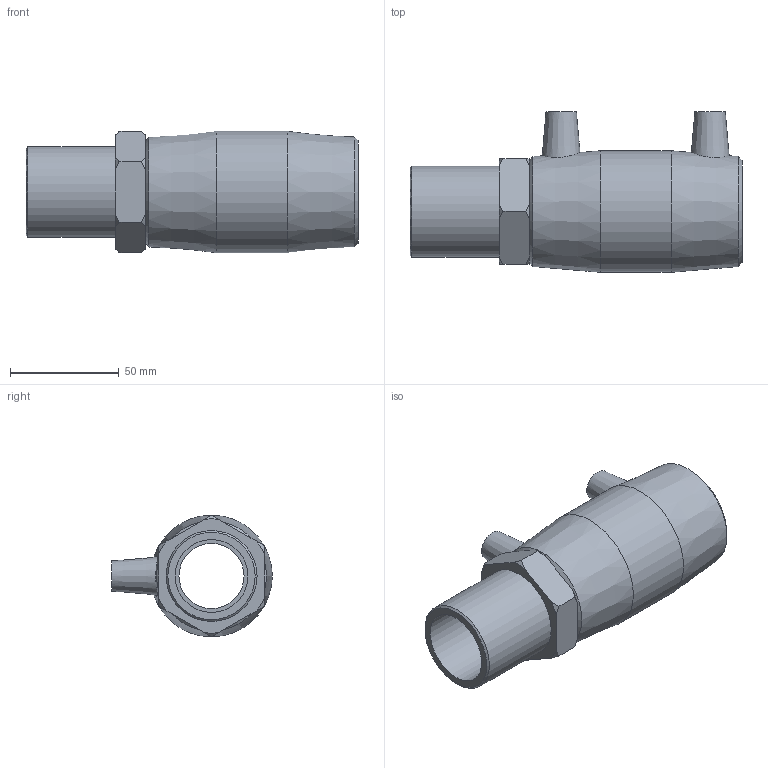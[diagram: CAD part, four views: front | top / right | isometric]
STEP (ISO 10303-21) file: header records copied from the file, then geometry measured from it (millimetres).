
FILE_DESCRIPTION(/* description */ ('PLASSON Male Transition Coupler 40 x 11⁄4"'),/* implementation_level */ '2;1');
FILE_NAME(/* name */ 'C:\Dropbox\KIMPROJECTS-Inventor\99-16-3568-Processing\ElectroFusion Fittings\02.02.20\492104\492104040013N.ipt.stp',/* time_stamp */ '2020-02-02T12:18:58+02:00',/* author */ ('KIM'),/* organization */ (''),/* preprocessor_version */ 'ST-DEVELOPER v15.6',/* originating_system */ 'Autodesk Inventor 2015',/* authorisation */ '');
FILE_SCHEMA (('AUTOMOTIVE_DESIGN { 1 0 10303 214 3 1 1 }'));
Length unit declared in the file: millimetre
Products named in the file (1): 492104040013N
Bounding box: 153 x 74 x 56 mm (x, y, z)
Volume: 171693.7 mm3; surface area: 49705 mm2
Topology: 1 solids, 2 shells, 54 faces, 118 edges, 77 vertices
Faces by surface type: plane 21, cone 21, cylinder 12
Full cylindrical faces by diameter (mm): 4 x2, 10 x2, 30 x1, 33.528 x1, 40 x4, 41.91 x1, 56 x1
Entity records: 1386 total; most frequent: CARTESIAN_POINT 329, DIRECTION 218, ORIENTED_EDGE 178, AXIS2_PLACEMENT_3D 100, EDGE_LOOP 90, EDGE_CURVE 89, VERTEX_POINT 71, FACE_OUTER_BOUND 54
